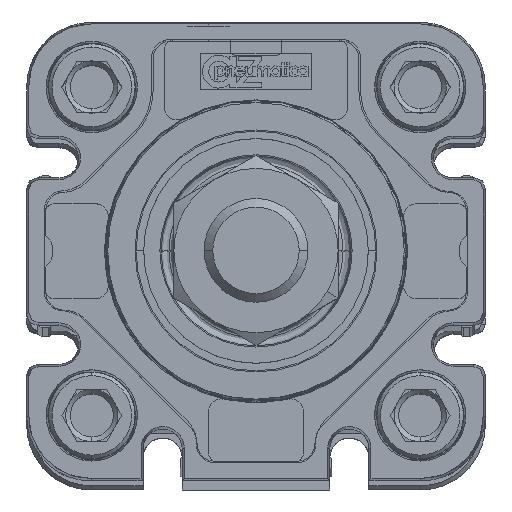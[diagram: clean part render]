
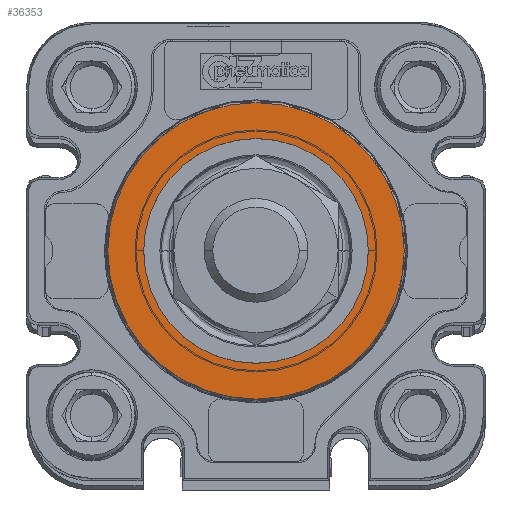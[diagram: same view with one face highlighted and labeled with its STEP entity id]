
A CAD part, top view. The second image highlights one B-rep face of the part: STEP entity #36353.
In plain terms, the highlighted planar face has unit normal (0, 0, 1) as drawn and (0, 0, -1) by its records, which use the part's own axes.
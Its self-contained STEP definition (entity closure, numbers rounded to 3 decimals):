
#73 = ORIENTED_EDGE ( 'NONE', *, *, #19828, .T. ) ;
#868 = CARTESIAN_POINT ( 'NONE',  ( 0., 0., -49.3 ) ) ;
#1000 = VERTEX_POINT ( 'NONE', #23078 ) ;
#1362 = EDGE_LOOP ( 'NONE', ( #24253, #73 ) ) ;
#2074 = AXIS2_PLACEMENT_3D ( 'NONE', #17625, #17498, #9103 ) ;
#2565 = CARTESIAN_POINT ( 'NONE',  ( 17.154, 0., -49.3 ) ) ;
#3127 = PLANE ( 'NONE',  #16304 ) ;
#3304 = VERTEX_POINT ( 'NONE', #16528 ) ;
#3456 = VERTEX_POINT ( 'NONE', #2565 ) ;
#3856 = ORIENTED_EDGE ( 'NONE', *, *, #10011, .T. ) ;
#5244 = AXIS2_PLACEMENT_3D ( 'NONE', #23194, #5989, #25928 ) ;
#5479 = EDGE_CURVE ( 'NONE', #1000, #13254, #24736, .T. ) ;
#5989 = DIRECTION ( 'NONE',  ( 0., 0., -1. ) ) ;
#6623 = DIRECTION ( 'NONE',  ( 0., 0., -1. ) ) ;
#7754 = AXIS2_PLACEMENT_3D ( 'NONE', #26550, #6623, #32627 ) ;
#7973 = CIRCLE ( 'NONE', #31013, 13. ) ;
#9103 = DIRECTION ( 'NONE',  ( 1., 0., 0. ) ) ;
#10011 = EDGE_CURVE ( 'NONE', #13254, #1000, #7973, .T. ) ;
#12034 = DIRECTION ( 'NONE',  ( 0., 0., -1. ) ) ;
#12390 = DIRECTION ( 'NONE',  ( -1., 0., 0. ) ) ;
#13254 = VERTEX_POINT ( 'NONE', #28878 ) ;
#14924 = EDGE_LOOP ( 'NONE', ( #19874, #3856 ) ) ;
#15636 = CARTESIAN_POINT ( 'NONE',  ( 0., 0., -49.3 ) ) ;
#16304 = AXIS2_PLACEMENT_3D ( 'NONE', #868, #12034, #12390 ) ;
#16528 = CARTESIAN_POINT ( 'NONE',  ( -17.154, 0., -49.3 ) ) ;
#17498 = DIRECTION ( 'NONE',  ( 0., 0., 1. ) ) ;
#17625 = CARTESIAN_POINT ( 'NONE',  ( 0., 0., -49.3 ) ) ;
#19828 = EDGE_CURVE ( 'NONE', #3304, #3456, #23230, .T. ) ;
#19874 = ORIENTED_EDGE ( 'NONE', *, *, #5479, .T. ) ;
#22590 = EDGE_CURVE ( 'NONE', #3456, #3304, #32995, .T. ) ;
#23078 = CARTESIAN_POINT ( 'NONE',  ( 13., 0., -49.3 ) ) ;
#23194 = CARTESIAN_POINT ( 'NONE',  ( 0., 0., -49.3 ) ) ;
#23230 = CIRCLE ( 'NONE', #5244, 17.154 ) ;
#24253 = ORIENTED_EDGE ( 'NONE', *, *, #22590, .T. ) ;
#24308 = DIRECTION ( 'NONE',  ( 0., 0., 1. ) ) ;
#24736 = CIRCLE ( 'NONE', #2074, 13. ) ;
#25928 = DIRECTION ( 'NONE',  ( -1., 0., 0. ) ) ;
#26550 = CARTESIAN_POINT ( 'NONE',  ( 0., 0., -49.3 ) ) ;
#27094 = FACE_BOUND ( 'NONE', #14924, .T. ) ;
#28878 = CARTESIAN_POINT ( 'NONE',  ( -13., 0., -49.3 ) ) ;
#28902 = FACE_OUTER_BOUND ( 'NONE', #1362, .T. ) ;
#29655 = DIRECTION ( 'NONE',  ( 1., 0., 0. ) ) ;
#31013 = AXIS2_PLACEMENT_3D ( 'NONE', #15636, #24308, #29655 ) ;
#32627 = DIRECTION ( 'NONE',  ( -1., 0., 0. ) ) ;
#32995 = CIRCLE ( 'NONE', #7754, 17.154 ) ;
#36353 = ADVANCED_FACE ( 'NONE', ( #28902, #27094 ), #3127, .T. ) ;
